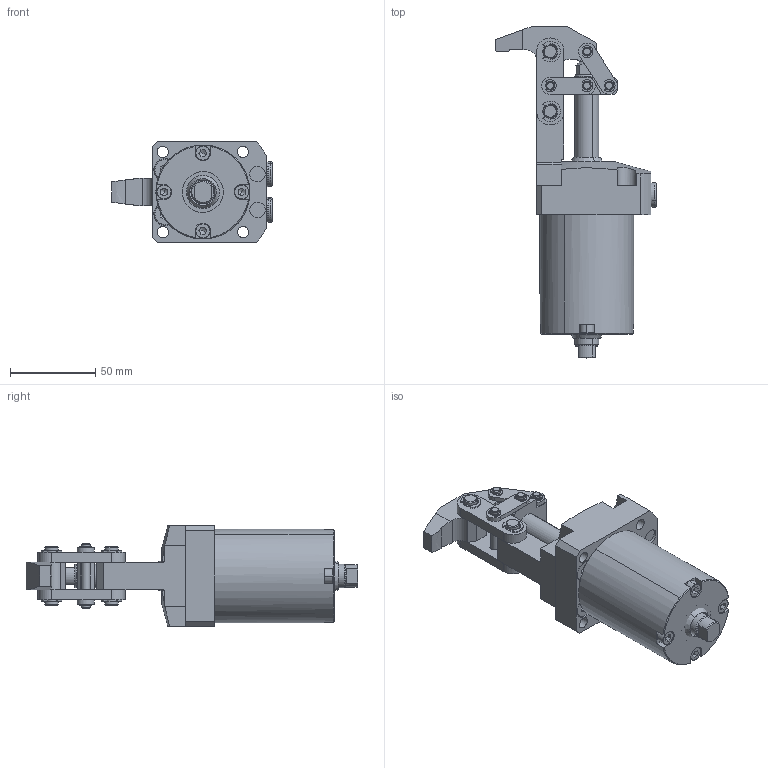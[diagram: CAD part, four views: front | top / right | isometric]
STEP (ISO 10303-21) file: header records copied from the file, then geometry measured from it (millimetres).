
FILE_DESCRIPTION(('CATIA V5 STEP Exchange'),'2;1');
FILE_NAME('\\kjf-102\KJF_TC\Hydraulic_Clamp\Standard\HINGE_CLAMP\MLC-3255G_-\배포도면\MLC-3255GD_B.stp','2026-03-16T04:23:11+00:00',('none'),('none'),'CATIA Version 5 Release 19 SP 9 (IN-10)','CATIA V5 STEP AP203','none');
FILE_SCHEMA(('CONFIG_CONTROL_DESIGN'));
Length unit declared in the file: millimetre
Products named in the file (1): MLC-3255GD_B
Assembly tree (40 placements, depth 2):
  MLC-3255GD_B
    #58
    #1355
    #2315
    #3913
    #4734
    #5754  x2
    #6487  x2
    #6807  x2
    #7127
    #8117  x2
    #8443  x2
    #8927  x2
    #9411  x2
    #9895  x2
    #10802  x4
    #11739  x4
    #12462  x8
    #13245  x2
Bounding box: 94.25 x 194.5 x 59 mm (x, y, z)
Volume: 288777 mm3; surface area: 92937 mm2
Topology: 44 solids, 44 shells, 1061 faces, 2531 edges, 1615 vertices
Faces by surface type: cylinder 471, plane 365, cone 155, torus 68, extrusion 2
Entity records: 15119 total; most frequent: CARTESIAN_POINT 3173, ORIENTED_EDGE 2462, DIRECTION 2047, EDGE_CURVE 1231, AXIS2_PLACEMENT_3D 1019, VERTEX_POINT 782, EDGE_LOOP 617, VECTOR 579
